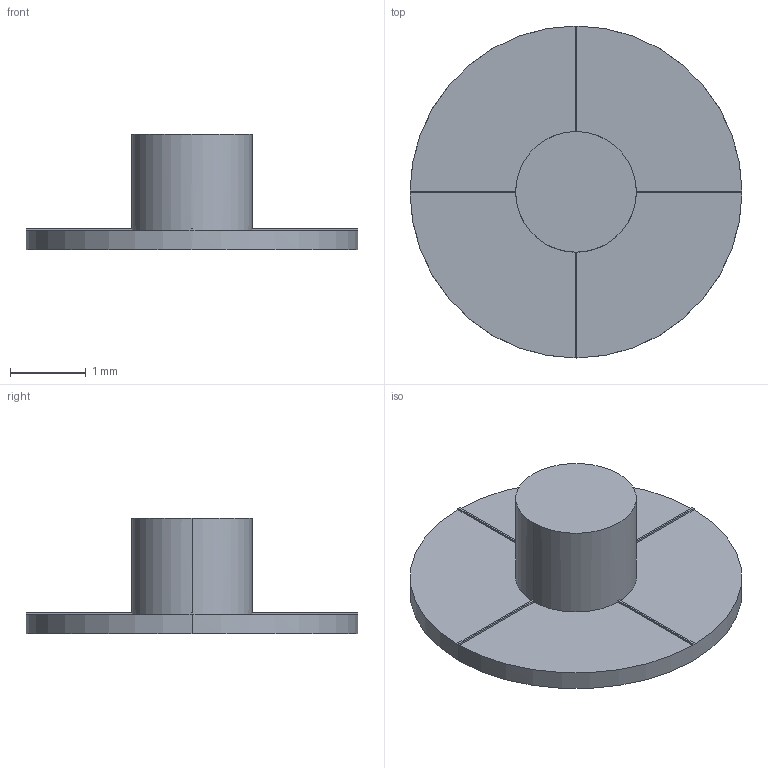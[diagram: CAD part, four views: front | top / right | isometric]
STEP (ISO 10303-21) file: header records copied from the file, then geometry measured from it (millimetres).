
FILE_DESCRIPTION((''),'2;1');
FILE_NAME('CONTACT_SIM_DUMMY-16','2020-09-24T20:57:09',('ccole'),(''),'CREO PARAMETRIC BY PTC INC, 2019292','CREO PARAMETRIC BY PTC INC, 2019292','');
FILE_SCHEMA(('CONFIG_CONTROL_DESIGN'));
Length unit declared in the file: inch
Products named in the file (1): CONTACT_SIM_DUMMY-16
Bounding box: 4.37 x 4.37 x 1.52 mm (x, y, z)
Volume: 6.3 mm3; surface area: 40.1 mm2
Topology: 1 solids, 1 shells, 26 faces, 64 edges, 40 vertices
Faces by surface type: plane 22, cylinder 4
Entity records: 802 total; most frequent: CARTESIAN_POINT 142, DIRECTION 128, ORIENTED_EDGE 128, EDGE_CURVE 64, AXIS2_PLACEMENT_3D 44, VECTOR 40, LINE 40, VERTEX_POINT 40
